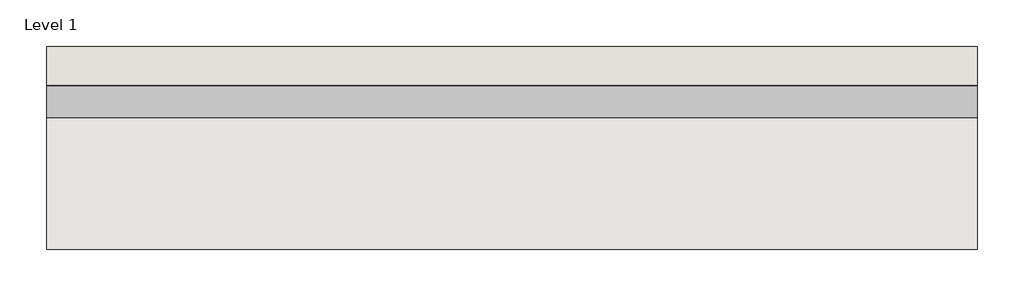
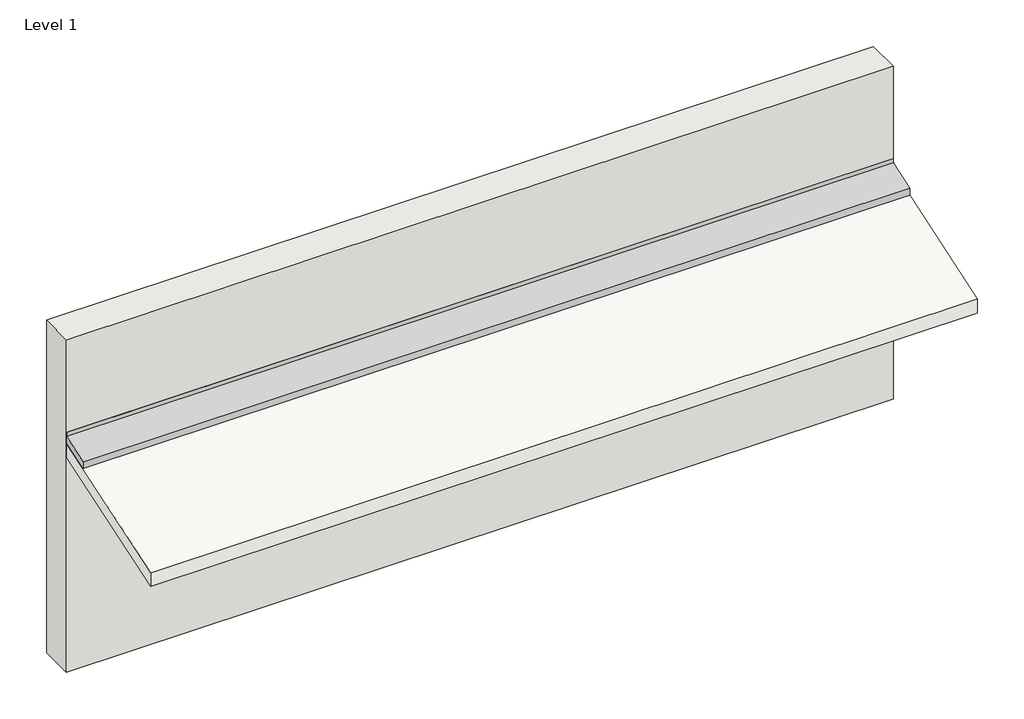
# One storey: 1 proxy, 1 roof, 1 wall.
"""IFC4 building model written with IfcOpenShell, lengths in millimetres."""

from ifc_helpers import new_model, si_unit, frame, origin, place, context, project, spatial, polyline, outline, extrude, transform, mapped, element, save
from components import specialty_equipment_c1aa3ee7

model = new_model("IFC4")

# Units and contexts
model_context = context("Model", 3, world=origin())
ifc_project = project(units=[si_unit("LENGTHUNIT", "METRE", prefix="MILLI")], contexts=[model_context])

# Site, building, storey
site = spatial("IfcSite", under=ifc_project)
building = spatial("IfcBuilding", under=site)
storey = spatial("IfcBuildingStorey", under=building, Name="Level 1", Elevation=0.0)

# Proxy
placement = place(None, origin())
specialty_equipment_shape = specialty_equipment_c1aa3ee7(model_context)
element("IfcBuildingElementProxy", 1, Name="Roof_Vent-Metal_Era-Hi_Perf_Ridge_Vent_Sloped_Roof_Meets_High_Wall : Roof_Vent-Metal_Era-Hi_Perf_Ridge_Vent_Sloped_Roof_Meets_High_Wall", ObjectType="Roof_Vent-Metal_Era-Hi_Perf_Ridge_Vent_Sloped_Roof_Meets_High_Wall : Roof_Vent-Metal_Era-Hi_Perf_Ridge_Vent_Sloped_Roof_Meets_High_Wall", at=placement, inside=storey, context=model_context, shape_type="MappedRepresentation", body=[
    mapped(specialty_equipment_shape, transform((-1682.2928122, 1794.0152822, -23.6181624), x_axis=(-1.0, 0.0, 0.0), y_axis=(0.0, -1.0, 0.0), z_axis=(0.0, 0.0, 1.0))),
])

# Roof
element("IfcRoof", 2, ObjectType="Generic - Custom", at=placement, inside=storey, context=model_context, shape_type="SweptSolid", body=[
    extrude(outline(polyline([(1256.20559, -150.4032102), (1793.8127036, 28.799161), (1793.8127036, -24.7487407), (1256.20559, -203.9511119), (1256.20559, -150.4032102)])), frame((-4730.2928122, 0.0, 0.0), z_axis=(1.0, 0.0, 0.0), x_axis=(0.0, 1.0, 0.0)), (0.0, 0.0, 1.0), 3048.0),
])

# Wall
element("IfcWall", 3, ObjectType="Generic - 5\"", at=placement, inside=storey, context=model_context, shape_type="SweptSolid", body=[
    extrude(outline(polyline([(-1682.2928122, 1794.0152822), (-4730.2928122, 1794.0152822), (-4730.2928122, 1921.0152822), (-1682.2928122, 1921.0152822), (-1682.2928122, 1794.0152822)])), frame((0.0, 0.0, -864.9535799), z_axis=(0.0, 0.0, 1.0), x_axis=(1.0, 0.0, 0.0)), (0.0, 0.0, 1.0), 1296.7535799),
])

save(model, "model.ifc")
